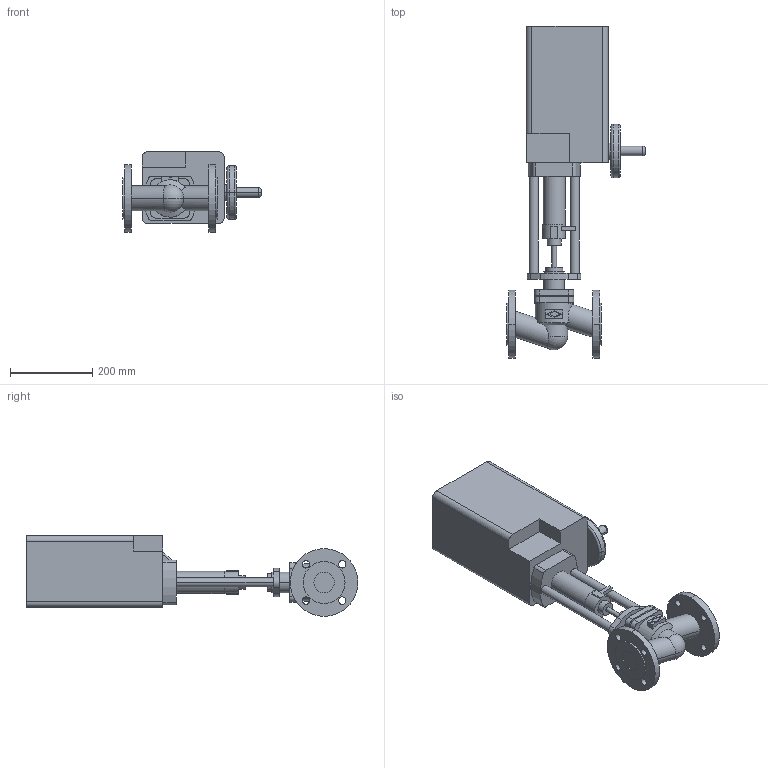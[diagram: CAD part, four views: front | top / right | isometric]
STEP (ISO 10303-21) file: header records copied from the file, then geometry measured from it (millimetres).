
FILE_DESCRIPTION(('OneSpaceDesigner STEP Export'),'2;1');
FILE_NAME('c000001189.stp','2005-01-05T12:50:54',(''),(''),'OneSpace Designer STEP processor (Jan. 2003) for AP203(Solid Model)','OneSpace Designer 12.01D 09-Jul-2004 (C) CoCreate Software GmbH','');
FILE_SCHEMA(('CONFIG_CONTROL_DESIGN'));
Length unit declared in the file: millimetre
Products named in the file (1): 1
Bounding box: 336.6 x 809 x 196.5 mm (x, y, z)
Volume: 14695572.7 mm3; surface area: 629042.1 mm2
Topology: 1 solids, 1 shells, 173 faces, 431 edges, 285 vertices
Faces by surface type: cylinder 84, plane 79, torus 6, cone 2, sphere 2
Entity records: 5069 total; most frequent: CARTESIAN_POINT 1063, ORIENTED_EDGE 858, DIRECTION 750, EDGE_CURVE 429, VERTEX_POINT 285, AXIS2_PLACEMENT_3D 265, VECTOR 220, LINE 220
